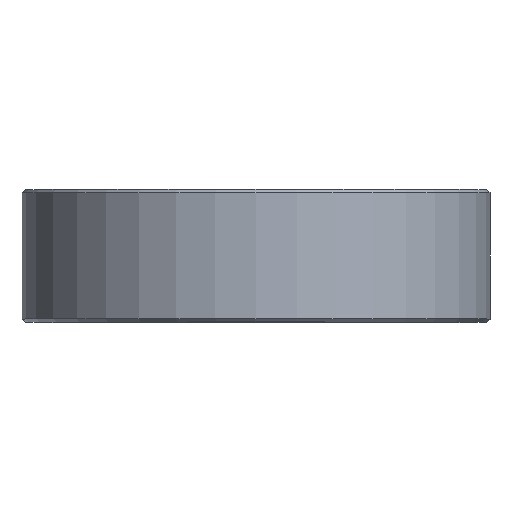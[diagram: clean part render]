
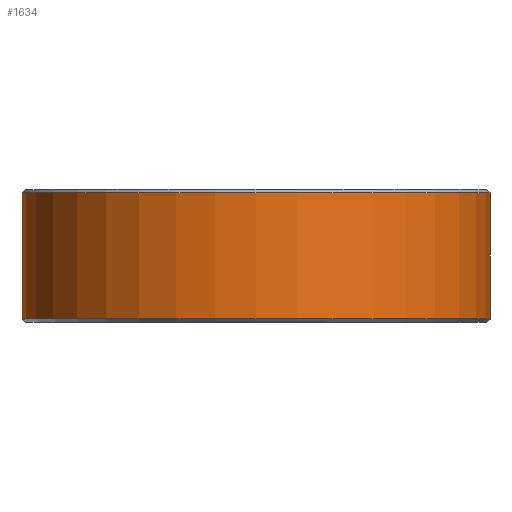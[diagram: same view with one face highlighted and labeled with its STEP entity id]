
A CAD part, top view. The second image highlights one B-rep face of the part: STEP entity #1634.
In plain terms, the highlighted cylindrical face has radius 14.1 mm (diameter 28.2 mm), a partial arc.
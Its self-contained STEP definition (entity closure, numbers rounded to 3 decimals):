
#59=DIRECTION('',(0.,-1.,0.));
#60=VECTOR('',#59,7.6);
#61=CARTESIAN_POINT('',(-14.1,7.8,0.));
#62=LINE('',#61,#60);
#378=CARTESIAN_POINT('',(0.,0.2,0.));
#379=DIRECTION('',(0.,-1.,0.));
#380=DIRECTION('',(1.,0.,0.));
#381=AXIS2_PLACEMENT_3D('',#378,#379,#380);
#383=CARTESIAN_POINT('',(0.,7.8,0.));
#384=DIRECTION('',(0.,1.,0.));
#385=DIRECTION('',(-1.,0.,0.));
#386=AXIS2_PLACEMENT_3D('',#383,#384,#385);
#388=DIRECTION('',(0.,-1.,0.));
#389=VECTOR('',#388,7.6);
#390=CARTESIAN_POINT('',(14.1,7.8,0.));
#391=LINE('',#390,#389);
#1271=CARTESIAN_POINT('',(14.1,7.8,0.));
#1272=VERTEX_POINT('',#1271);
#1273=CARTESIAN_POINT('',(-14.1,7.8,0.));
#1274=VERTEX_POINT('',#1273);
#1275=CARTESIAN_POINT('',(14.1,0.2,0.));
#1276=VERTEX_POINT('',#1275);
#1277=CARTESIAN_POINT('',(-14.1,0.2,0.));
#1278=VERTEX_POINT('',#1277);
#1622=CARTESIAN_POINT('',(0.,0.,0.));
#1623=DIRECTION('',(0.,1.,0.));
#1624=DIRECTION('',(1.,0.,0.));
#1625=AXIS2_PLACEMENT_3D('',#1622,#1623,#1624);
#1626=CYLINDRICAL_SURFACE('',#1625,14.1);
#1627=ORIENTED_EDGE('',*,*,#1454,.T.);
#1628=ORIENTED_EDGE('',*,*,#1485,.F.);
#1630=ORIENTED_EDGE('',*,*,#1629,.T.);
#1631=ORIENTED_EDGE('',*,*,#1481,.T.);
#1632=EDGE_LOOP('',(#1627,#1628,#1630,#1631));
#1633=FACE_OUTER_BOUND('',#1632,.F.);
#1634=ADVANCED_FACE('',(#1633),#1626,.T.);
#382=CIRCLE('',#381,14.1);
#387=CIRCLE('',#386,14.1);
#1454=EDGE_CURVE('',#1276,#1278,#382,.T.);
#1481=EDGE_CURVE('',#1272,#1276,#391,.T.);
#1485=EDGE_CURVE('',#1274,#1278,#62,.T.);
#1629=EDGE_CURVE('',#1274,#1272,#387,.T.);
